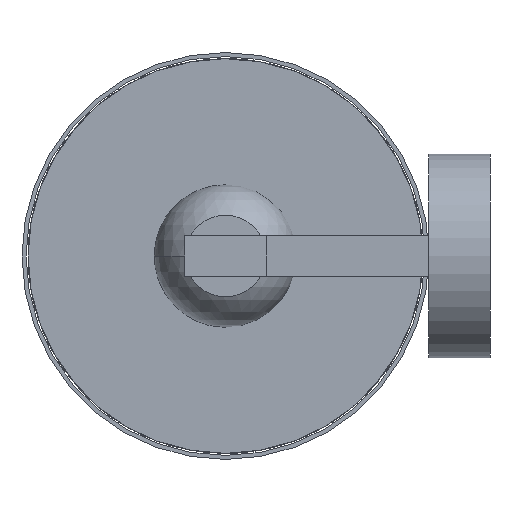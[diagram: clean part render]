
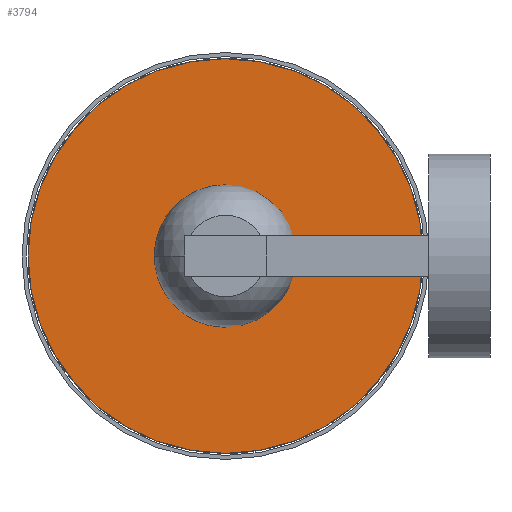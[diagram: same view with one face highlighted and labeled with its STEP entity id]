
A CAD part, front view. The second image highlights one B-rep face of the part: STEP entity #3794.
In plain terms, the highlighted planar face has unit normal (0, -1, 0).
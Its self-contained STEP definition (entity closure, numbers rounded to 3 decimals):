
#768 = ORIENTED_EDGE ( 'NONE', *, *, #1937, .F. ) ;
#1175 = PLANE ( 'NONE',  #3344 ) ;
#1272 = VERTEX_POINT ( 'NONE', #11237 ) ;
#1937 = EDGE_CURVE ( 'NONE', #14143, #1272, #2171, .T. ) ;
#2171 = CIRCLE ( 'NONE', #5867, 97. ) ;
#3344 = AXIS2_PLACEMENT_3D ( 'NONE', #7964, #6907, #3375 ) ;
#3375 = DIRECTION ( 'NONE',  ( 0., 0., 1. ) ) ;
#3794 = ADVANCED_FACE ( 'NONE', ( #6998 ), #1175, .F. ) ;
#4677 = CARTESIAN_POINT ( 'NONE',  ( -100., 225., 0. ) ) ;
#4765 = EDGE_CURVE ( 'NONE', #1272, #14143, #10802, .T. ) ;
#5549 = DIRECTION ( 'NONE',  ( 0., 1., 0. ) ) ;
#5686 = CARTESIAN_POINT ( 'NONE',  ( -100., 225., 0. ) ) ;
#5867 = AXIS2_PLACEMENT_3D ( 'NONE', #4677, #10574, #6889 ) ;
#6889 = DIRECTION ( 'NONE',  ( 0., 0., 1. ) ) ;
#6907 = DIRECTION ( 'NONE',  ( 0., 1., 0. ) ) ;
#6998 = FACE_OUTER_BOUND ( 'NONE', #10931, .T. ) ;
#7964 = CARTESIAN_POINT ( 'NONE',  ( -100., 225., 0. ) ) ;
#9866 = AXIS2_PLACEMENT_3D ( 'NONE', #5686, #5549, #12617 ) ;
#10574 = DIRECTION ( 'NONE',  ( 0., 1., 0. ) ) ;
#10802 = CIRCLE ( 'NONE', #9866, 97. ) ;
#10831 = ORIENTED_EDGE ( 'NONE', *, *, #4765, .F. ) ;
#10931 = EDGE_LOOP ( 'NONE', ( #10831, #768 ) ) ;
#11237 = CARTESIAN_POINT ( 'NONE',  ( -100., 225., 97. ) ) ;
#12323 = CARTESIAN_POINT ( 'NONE',  ( -100., 225., -97. ) ) ;
#12617 = DIRECTION ( 'NONE',  ( 0., 0., 1. ) ) ;
#14143 = VERTEX_POINT ( 'NONE', #12323 ) ;
